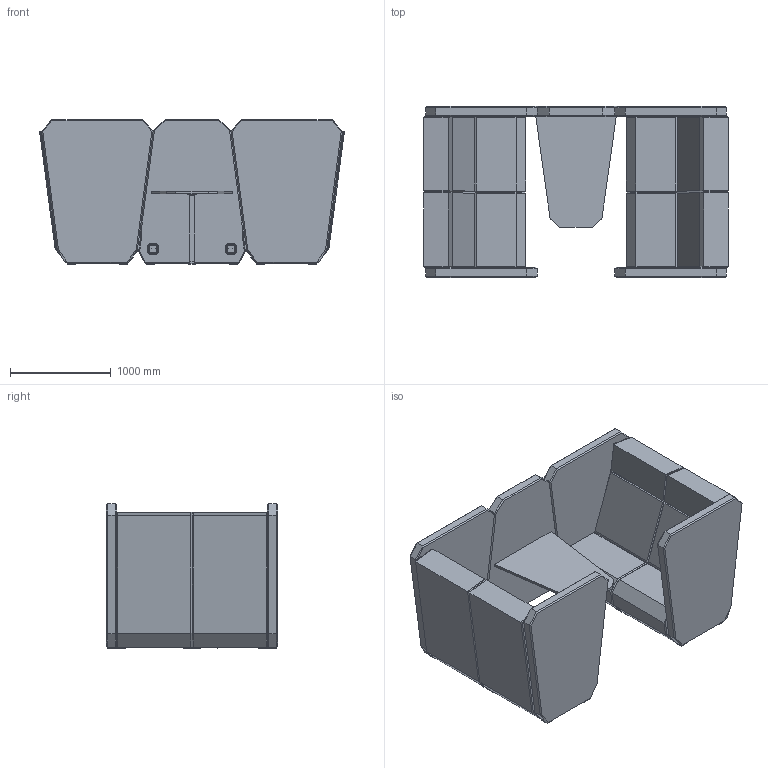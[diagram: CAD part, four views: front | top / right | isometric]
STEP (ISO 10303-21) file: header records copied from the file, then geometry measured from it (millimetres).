
FILE_DESCRIPTION(/* description */ (''),/* implementation_level */ '2;1');
FILE_NAME(/* name */ 'BOXKM2~1',/* time_stamp */ '2015-10-05T16:41:16+02:00',/* author */ (''),/* organization */ (''),/* preprocessor_version */ 'ST-DEVELOPER v15',/* originating_system */ '',/* authorisation */ '');
FILE_SCHEMA (('CONFIG_CONTROL_DESIGN'));
Length unit declared in the file: millimetre
Products named in the file (1): Document
Bounding box: 3029.47 x 1700 x 1439 mm (x, y, z)
Volume: 1936559061.8 mm3; surface area: 35360984 mm2
Topology: 25 solids, 41 shells, 600 faces, 1483 edges, 878 vertices
Faces by surface type: bspline 498, plane 102
Entity records: 20687 total; most frequent: CARTESIAN_POINT 13195, ORIENTED_EDGE 2690, EDGE_CURVE 1408, VERTEX_POINT 874, EDGE_LOOP 604, ADVANCED_FACE 600, FACE_OUTER_BOUND 600, B_SPLINE_CURVE_WITH_KNOTS 176
